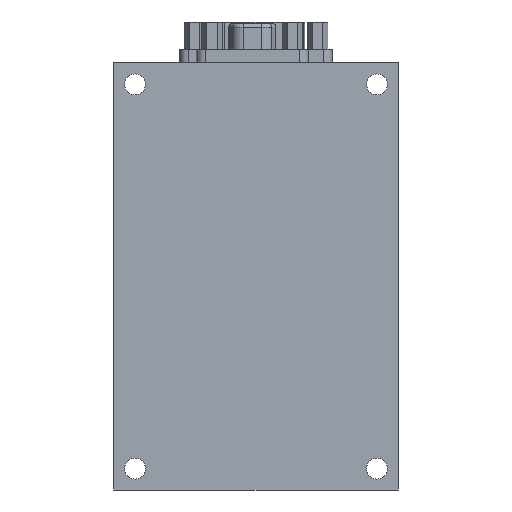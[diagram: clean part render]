
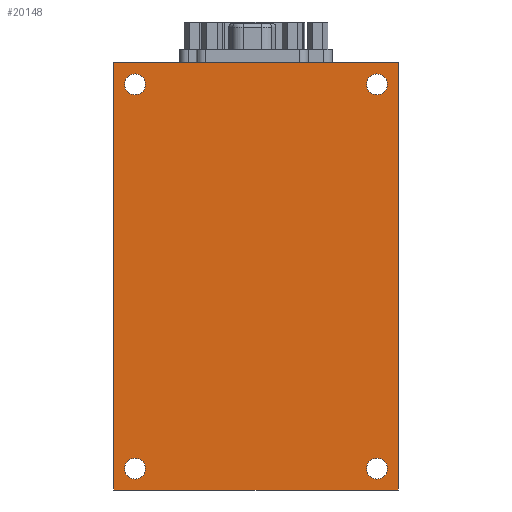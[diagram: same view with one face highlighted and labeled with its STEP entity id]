
A CAD part, front view. The second image highlights one B-rep face of the part: STEP entity #20148.
In plain terms, the highlighted planar face has unit normal (0, -1, 0).
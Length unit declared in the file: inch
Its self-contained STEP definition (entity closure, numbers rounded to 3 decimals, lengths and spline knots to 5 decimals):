
#72 = DIRECTION ( 'NONE',  ( 0., 0., 1. ) ) ;
#311 = DIRECTION ( 'NONE',  ( 0., 0., 1. ) ) ;
#800 = FACE_BOUND ( 'NONE', #24589, .T. ) ;
#1813 = LINE ( 'NONE', #5285, #16707 ) ;
#2199 = DIRECTION ( 'NONE',  ( 0., -1., 0. ) ) ;
#2578 = EDGE_CURVE ( 'NONE', #7386, #8181, #11813, .T. ) ;
#3534 = CARTESIAN_POINT ( 'NONE',  ( 0.85, -0.385, 1.2765 ) ) ;
#4287 = DIRECTION ( 'NONE',  ( 0., 1., 0. ) ) ;
#4745 = ORIENTED_EDGE ( 'NONE', *, *, #10868, .F. ) ;
#4941 = CARTESIAN_POINT ( 'NONE',  ( -0.85, -0.385, -1.4235 ) ) ;
#5285 = CARTESIAN_POINT ( 'NONE',  ( -1., -0.385, -1.5 ) ) ;
#5726 = CARTESIAN_POINT ( 'NONE',  ( 1., -0.385, 1.5 ) ) ;
#5745 = CIRCLE ( 'NONE', #15514, 0.0735 ) ;
#6298 = VERTEX_POINT ( 'NONE', #34949 ) ;
#6453 = VERTEX_POINT ( 'NONE', #28497 ) ;
#6578 = DIRECTION ( 'NONE',  ( 0., 1., 0. ) ) ;
#6813 = DIRECTION ( 'NONE',  ( 0., 1., 0. ) ) ;
#7386 = VERTEX_POINT ( 'NONE', #3534 ) ;
#7619 = AXIS2_PLACEMENT_3D ( 'NONE', #33557, #16835, #72 ) ;
#7691 = CARTESIAN_POINT ( 'NONE',  ( -1., -0.385, 1.5 ) ) ;
#8181 = VERTEX_POINT ( 'NONE', #26752 ) ;
#8272 = FACE_BOUND ( 'NONE', #13351, .T. ) ;
#8333 = DIRECTION ( 'NONE',  ( 0., 1., 0. ) ) ;
#8660 = DIRECTION ( 'NONE',  ( 0., 1., 0. ) ) ;
#8713 = ORIENTED_EDGE ( 'NONE', *, *, #35962, .T. ) ;
#9050 = CIRCLE ( 'NONE', #22476, 0.0735 ) ;
#9668 = CIRCLE ( 'NONE', #7619, 0.0735 ) ;
#10012 = CIRCLE ( 'NONE', #36156, 0.0735 ) ;
#10393 = VERTEX_POINT ( 'NONE', #5726 ) ;
#10432 = CARTESIAN_POINT ( 'NONE',  ( -0.85, -0.385, 1.4235 ) ) ;
#10676 = CARTESIAN_POINT ( 'NONE',  ( -1., -0.385, 1.5 ) ) ;
#10818 = EDGE_CURVE ( 'NONE', #29047, #6298, #9668, .T. ) ;
#10868 = EDGE_CURVE ( 'NONE', #23833, #20841, #21391, .T. ) ;
#11238 = AXIS2_PLACEMENT_3D ( 'NONE', #23488, #6813, #26349 ) ;
#11763 = CARTESIAN_POINT ( 'NONE',  ( 0.85, -0.385, -1.35 ) ) ;
#11797 = VERTEX_POINT ( 'NONE', #30569 ) ;
#11813 = CIRCLE ( 'NONE', #22525, 0.0735 ) ;
#12669 = EDGE_CURVE ( 'NONE', #23800, #11797, #35953, .T. ) ;
#12963 = DIRECTION ( 'NONE',  ( 0., 1., 0. ) ) ;
#13351 = EDGE_LOOP ( 'NONE', ( #19856, #34720 ) ) ;
#13510 = ORIENTED_EDGE ( 'NONE', *, *, #33027, .T. ) ;
#13746 = DIRECTION ( 'NONE',  ( 1., 0., 0. ) ) ;
#14173 = EDGE_LOOP ( 'NONE', ( #4745, #34779, #15411, #16218 ) ) ;
#14835 = DIRECTION ( 'NONE',  ( 0., 1., 0. ) ) ;
#15411 = ORIENTED_EDGE ( 'NONE', *, *, #15738, .F. ) ;
#15514 = AXIS2_PLACEMENT_3D ( 'NONE', #24540, #14835, #29885 ) ;
#15704 = FACE_OUTER_BOUND ( 'NONE', #14173, .T. ) ;
#15738 = EDGE_CURVE ( 'NONE', #10393, #15868, #35038, .T. ) ;
#15823 = CIRCLE ( 'NONE', #11238, 0.0735 ) ;
#15868 = VERTEX_POINT ( 'NONE', #19544 ) ;
#16218 = ORIENTED_EDGE ( 'NONE', *, *, #28094, .F. ) ;
#16348 = ORIENTED_EDGE ( 'NONE', *, *, #22901, .T. ) ;
#16707 = VECTOR ( 'NONE', #21846, 39.37008 ) ;
#16835 = DIRECTION ( 'NONE',  ( 0., 1., 0. ) ) ;
#17724 = DIRECTION ( 'NONE',  ( 0., 0., -1. ) ) ;
#18612 = EDGE_LOOP ( 'NONE', ( #28379, #13510 ) ) ;
#18954 = DIRECTION ( 'NONE',  ( 0., 0., -1. ) ) ;
#18955 = VECTOR ( 'NONE', #13746, 39.37008 ) ;
#19544 = CARTESIAN_POINT ( 'NONE',  ( 1., -0.385, -1.5 ) ) ;
#19856 = ORIENTED_EDGE ( 'NONE', *, *, #12669, .T. ) ;
#20148 = ADVANCED_FACE ( 'NONE', ( #23069, #23927, #15704, #8272, #800 ), #20284, .T. ) ;
#20284 = PLANE ( 'NONE',  #24091 ) ;
#20530 = VECTOR ( 'NONE', #311, 39.37008 ) ;
#20841 = VERTEX_POINT ( 'NONE', #10676 ) ;
#20978 = CARTESIAN_POINT ( 'NONE',  ( -0.85, -0.385, 1.35 ) ) ;
#21391 = LINE ( 'NONE', #7691, #20530 ) ;
#21846 = DIRECTION ( 'NONE',  ( -1., 0., 0. ) ) ;
#22476 = AXIS2_PLACEMENT_3D ( 'NONE', #20978, #4287, #23765 ) ;
#22503 = CARTESIAN_POINT ( 'NONE',  ( 0.85, -0.385, 1.35 ) ) ;
#22525 = AXIS2_PLACEMENT_3D ( 'NONE', #22503, #12963, #31837 ) ;
#22901 = EDGE_CURVE ( 'NONE', #6453, #30496, #5745, .T. ) ;
#23069 = FACE_BOUND ( 'NONE', #31330, .T. ) ;
#23488 = CARTESIAN_POINT ( 'NONE',  ( 0.85, -0.385, 1.35 ) ) ;
#23765 = DIRECTION ( 'NONE',  ( 0., 0., 1. ) ) ;
#23800 = VERTEX_POINT ( 'NONE', #30674 ) ;
#23833 = VERTEX_POINT ( 'NONE', #29568 ) ;
#23927 = FACE_BOUND ( 'NONE', #18612, .T. ) ;
#24091 = AXIS2_PLACEMENT_3D ( 'NONE', #24912, #2199, #18954 ) ;
#24540 = CARTESIAN_POINT ( 'NONE',  ( -0.85, -0.385, 1.35 ) ) ;
#24589 = EDGE_LOOP ( 'NONE', ( #25631, #27523 ) ) ;
#24912 = CARTESIAN_POINT ( 'NONE',  ( 0., -0.385, 0. ) ) ;
#25027 = CARTESIAN_POINT ( 'NONE',  ( -0.85, -0.385, -1.35 ) ) ;
#25391 = CARTESIAN_POINT ( 'NONE',  ( 0.85, -0.385, -1.35 ) ) ;
#25631 = ORIENTED_EDGE ( 'NONE', *, *, #2578, .T. ) ;
#26349 = DIRECTION ( 'NONE',  ( 0., 0., 1. ) ) ;
#26752 = CARTESIAN_POINT ( 'NONE',  ( 0.85, -0.385, 1.4235 ) ) ;
#27523 = ORIENTED_EDGE ( 'NONE', *, *, #35027, .T. ) ;
#27624 = VECTOR ( 'NONE', #17724, 39.37008 ) ;
#27832 = DIRECTION ( 'NONE',  ( 0., 0., 1. ) ) ;
#27951 = CARTESIAN_POINT ( 'NONE',  ( 1., -0.385, 1.5 ) ) ;
#28094 = EDGE_CURVE ( 'NONE', #20841, #10393, #33825, .T. ) ;
#28169 = DIRECTION ( 'NONE',  ( 0., 0., 1. ) ) ;
#28190 = CIRCLE ( 'NONE', #31035, 0.0735 ) ;
#28379 = ORIENTED_EDGE ( 'NONE', *, *, #10818, .T. ) ;
#28497 = CARTESIAN_POINT ( 'NONE',  ( -0.85, -0.385, 1.2765 ) ) ;
#29047 = VERTEX_POINT ( 'NONE', #4941 ) ;
#29518 = EDGE_CURVE ( 'NONE', #15868, #23833, #1813, .T. ) ;
#29568 = CARTESIAN_POINT ( 'NONE',  ( -1., -0.385, -1.5 ) ) ;
#29672 = AXIS2_PLACEMENT_3D ( 'NONE', #11763, #6578, #34799 ) ;
#29885 = DIRECTION ( 'NONE',  ( 0., 0., 1. ) ) ;
#30123 = EDGE_CURVE ( 'NONE', #11797, #23800, #10012, .T. ) ;
#30486 = CARTESIAN_POINT ( 'NONE',  ( -1., -0.385, 1.5 ) ) ;
#30496 = VERTEX_POINT ( 'NONE', #10432 ) ;
#30569 = CARTESIAN_POINT ( 'NONE',  ( 0.85, -0.385, -1.2765 ) ) ;
#30674 = CARTESIAN_POINT ( 'NONE',  ( 0.85, -0.385, -1.4235 ) ) ;
#31035 = AXIS2_PLACEMENT_3D ( 'NONE', #25027, #8333, #27832 ) ;
#31330 = EDGE_LOOP ( 'NONE', ( #16348, #8713 ) ) ;
#31837 = DIRECTION ( 'NONE',  ( 0., 0., 1. ) ) ;
#33027 = EDGE_CURVE ( 'NONE', #6298, #29047, #28190, .T. ) ;
#33557 = CARTESIAN_POINT ( 'NONE',  ( -0.85, -0.385, -1.35 ) ) ;
#33825 = LINE ( 'NONE', #30486, #18955 ) ;
#34720 = ORIENTED_EDGE ( 'NONE', *, *, #30123, .T. ) ;
#34779 = ORIENTED_EDGE ( 'NONE', *, *, #29518, .F. ) ;
#34799 = DIRECTION ( 'NONE',  ( 0., 0., 1. ) ) ;
#34949 = CARTESIAN_POINT ( 'NONE',  ( -0.85, -0.385, -1.2765 ) ) ;
#35027 = EDGE_CURVE ( 'NONE', #8181, #7386, #15823, .T. ) ;
#35038 = LINE ( 'NONE', #27951, #27624 ) ;
#35953 = CIRCLE ( 'NONE', #29672, 0.0735 ) ;
#35962 = EDGE_CURVE ( 'NONE', #30496, #6453, #9050, .T. ) ;
#36156 = AXIS2_PLACEMENT_3D ( 'NONE', #25391, #8660, #28169 ) ;
